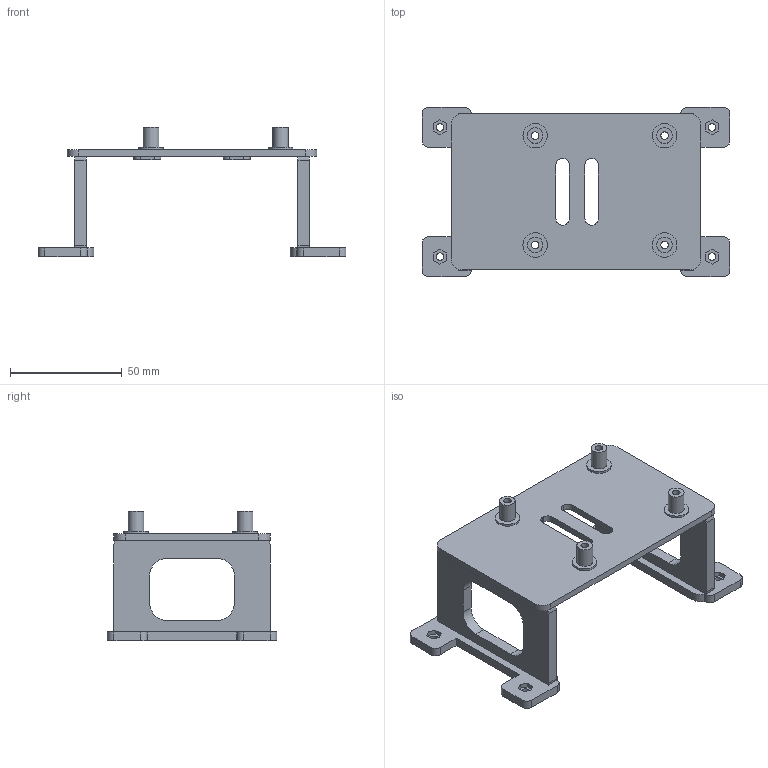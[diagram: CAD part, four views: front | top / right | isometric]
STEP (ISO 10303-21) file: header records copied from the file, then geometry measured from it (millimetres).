
FILE_DESCRIPTION(('FreeCAD Model'),'2;1');
FILE_NAME('Open CASCADE Shape Model','2026-10-18T22:43:11',('FreeCAD'),( 'FreeCAD'),'Open CASCADE STEP processor 7.8','FreeCAD','Unknown');
FILE_SCHEMA(('AUTOMOTIVE_DESIGN { 1 0 10303 214 1 1 1 1 }'));
Length unit declared in the file: millimetre
Products named in the file (1): Open CASCADE STEP translator 7.8 5
Bounding box: 138 x 76 x 58.06 mm (x, y, z)
Volume: 54621.6 mm3; surface area: 33709.4 mm2
Topology: 1 solids, 1 shells, 196 faces, 516 edges, 344 vertices
Faces by surface type: plane 128, cylinder 68
Full cylindrical faces by diameter (mm): 3.4 x8, 7 x4, 11 x4
Entity records: 6114 total; most frequent: CARTESIAN_POINT 1057, DIRECTION 1046, ORIENTED_EDGE 1032, EDGE_CURVE 516, LINE 380, VECTOR 380, VERTEX_POINT 344, AXIS2_PLACEMENT_3D 333
